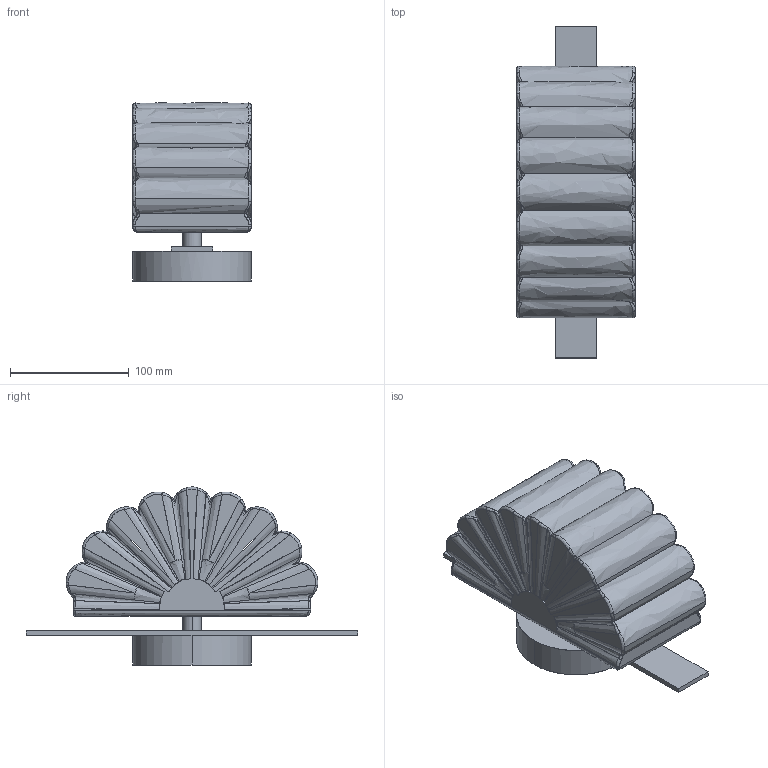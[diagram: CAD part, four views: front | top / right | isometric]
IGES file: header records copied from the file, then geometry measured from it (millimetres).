
Start section: SolidWorks IGES file using analytic representation for surfaces
Global section: file name: C:\Users\Agustin\Desktop\ARNOLD\2024 SEPTIEMBRE\2D\GINA\2D-3D A1334\GINA_A1334.IGS; native system: SolidWorks 2018; preprocessor: SolidWorks 2018; author: Agustin; date: 240918.094446; units: millimetre
Bounding box: 100 x 280 x 150.17 mm (x, y, z)
Surface area: 134325.4 mm2 (no closed solid volume)
Topology: 0 solids, 0 shells, 264 faces, 2787 edges, 2778 vertices
Faces by surface type: bspline 203, revolution 61
